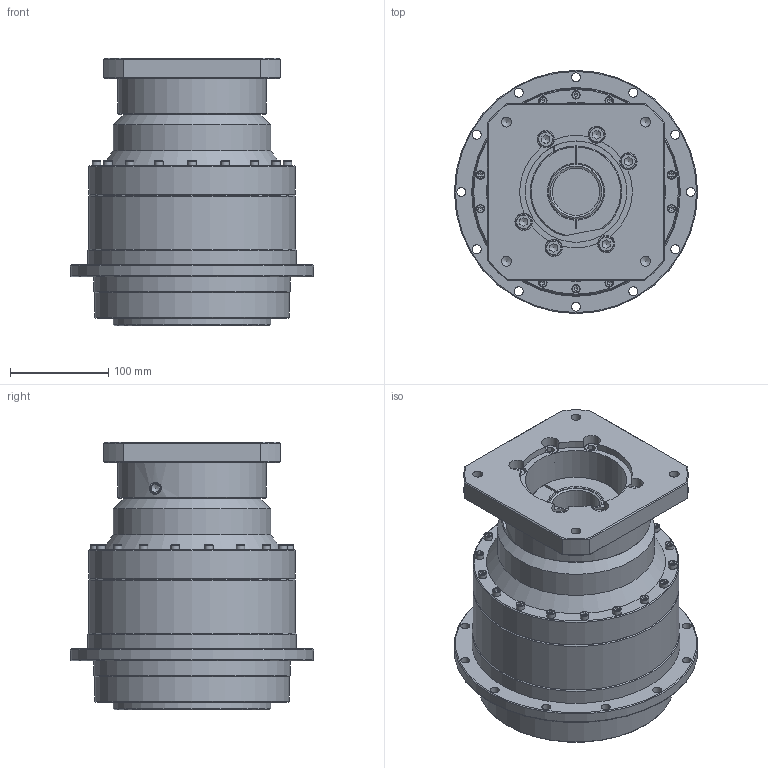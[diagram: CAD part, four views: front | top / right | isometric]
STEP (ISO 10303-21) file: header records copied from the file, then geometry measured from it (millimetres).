
FILE_DESCRIPTION((''),'2;1');
FILE_NAME('D:\유성\유성\도면\3D\2. 홈페이지용 3D 도면 (ipt)\외부도\SPIFH180\SPIFH180 SERIES (1 STAGE)_Shrinkwrap_1.stp','2014-05-08T19:24:58',('nagyu'),(''),'Autodesk Inventor 2013','Autodesk Inventor 2013','');
FILE_SCHEMA(('AUTOMOTIVE_DESIGN { 1 0 10303 214 1 1 1 1 }'));
Length unit declared in the file: millimetre
Products named in the file (1): SPIFH180 SERIES (1 STAGE)_Shrinkwrap_1
Bounding box: 247 x 247 x 272.25 mm (x, y, z)
Volume: 7225006.2 mm3; surface area: 412162 mm2
Topology: 1 solids, 46 shells, 639 faces, 1463 edges, 942 vertices
Faces by surface type: plane 302, cylinder 177, cone 102, torus 58
Full cylindrical faces by diameter (mm): 4.134 x18, 5 x18, 5.5 x18, 8.376 x10, 8.5 x18, 9 x12, 10 x9, 10.106 x4, 10.2 x1, 11 x7, 12 x1, 16 x17, 17.5 x6, 48 x1, 53.5 x1, 64.8 x1, 80 x1, 103 x1, 109 x2, 151 x1, 160 x2, 180 x2, 184.8 x1, 198 x1, 200 x1, 210 x2, 212 x1, 247 x1
Entity records: 15690 total; most frequent: CARTESIAN_POINT 3029, DIRECTION 2571, ORIENTED_EDGE 2036, AXIS2_PLACEMENT_3D 1099, EDGE_LOOP 1055, EDGE_CURVE 1018, VERTEX_POINT 799, FACE_OUTER_BOUND 639
